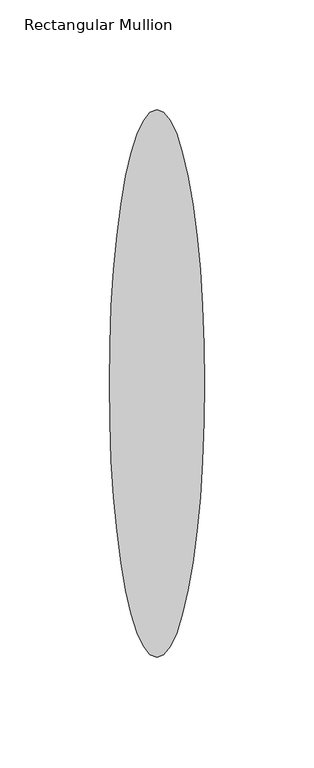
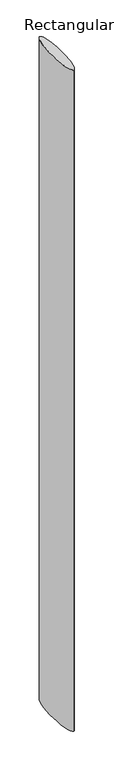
"""IFC4 building model written with IfcOpenShell, lengths in millimetres: member geometry, Rectangular Mullion : RSen_21_CWM_blade - 250 ellips - 0°_gen_duco projects."""

from ifc_helpers import new_model, si_unit, point, frame, origin, place, context, project, spatial, ellipse_curve, trimmed, source, transform, mapped, element, save
from ifc_brep_helpers import plane_surface, extruded_surface, advanced_brep


def rectangular_mullion_1c901da9(model_context):
    return source(origin(), model_context, "Body", "AdvancedBrep", [
        advanced_brep(
        [(0.0, 13.0, 0.0), (0.0, 263.0, 0.0), (0.0, 13.0, -3000.0), (0.0, 263.0, -3000.0)],
        [
            (0, 1, ellipse_curve(frame((0.0, 138.0, 0.0), z_axis=(0.0, 0.0, 1.0), x_axis=(0.0, 1.0, 0.0)), 125.0, 21.75)),
            (1, 0, ellipse_curve(frame((0.0, 138.0, 0.0), z_axis=(0.0, 0.0, 1.0), x_axis=(0.0, 1.0, 0.0)), 125.0, 21.75)),
            (2, 3, ellipse_curve(frame((0.0, 138.0, -3000.0), z_axis=(0.0, 0.0, -1.0), x_axis=(0.0, 1.0, 0.0)), 125.0, 21.75)),
            (3, 2, ellipse_curve(frame((0.0, 138.0, -3000.0), z_axis=(0.0, 0.0, -1.0), x_axis=(0.0, 1.0, 0.0)), 125.0, 21.75)),
            (0, 2),
            (3, 1),
        ],
        [
            plane_surface(frame((0.0, -263.0, 0.0), z_axis=(0.0, 0.0, 1.0), x_axis=(-1.0, 0.0, 0.0))),
            plane_surface(frame((0.0, -263.0, -3000.0), z_axis=(0.0, 0.0, -1.0), x_axis=(-1.0, 0.0, 0.0))),
            extruded_surface(trimmed(ellipse_curve(frame((0.0, 138.0, -3000.0), z_axis=(0.0, 0.0, 1.0), x_axis=(0.0, 1.0, 0.0)), 125.0, 21.75), [point((0.0, 13.0, -3000.0))], [point((0.0, 263.0, -3000.0))], True, "CARTESIAN"), (0.0, 0.0, 3000.0), 3000.0),
            extruded_surface(trimmed(ellipse_curve(frame((0.0, 138.0, -3000.0), z_axis=(0.0, 0.0, 1.0), x_axis=(0.0, 1.0, 0.0)), 125.0, 21.75), [point((0.0, 263.0, -3000.0))], [point((0.0, 13.0, -3000.0))], True, "CARTESIAN"), (0.0, 0.0, 3000.0), 3000.0),
        ],
        [
            (0, [[1, 2]]),
            (1, [[3, 4]]),
            (2, [[-1, 5, -4, 6]]),
            (3, [[-2, -6, -3, -5]]),
        ],
    ),
    ])


if __name__ == "__main__":
    model = new_model("IFC4")
    model_context = context("Model", 3, world=origin())
    ifc_project = project(units=[si_unit("LENGTHUNIT", "METRE", prefix="MILLI")], contexts=[model_context])
    site = spatial("IfcSite", under=ifc_project)
    building = spatial("IfcBuilding", under=site)
    placement = place(None, origin())
    rectangular_mullion_shape = rectangular_mullion_1c901da9(model_context)
    element("IfcMember", 1, ObjectType="Rectangular Mullion : RSen_21_CWM_blade - 250 ellips - 0°_gen_duco projects", at=placement, inside=building, context=model_context, shape_type="MappedRepresentation", body=[
        mapped(rectangular_mullion_shape, transform((0.0, 0.0, 0.0), x_axis=(1.0, 0.0, 0.0), y_axis=(0.0, 1.0, 0.0), z_axis=(0.0, 0.0, 1.0))),
    ])
    save(model, "model.ifc")
